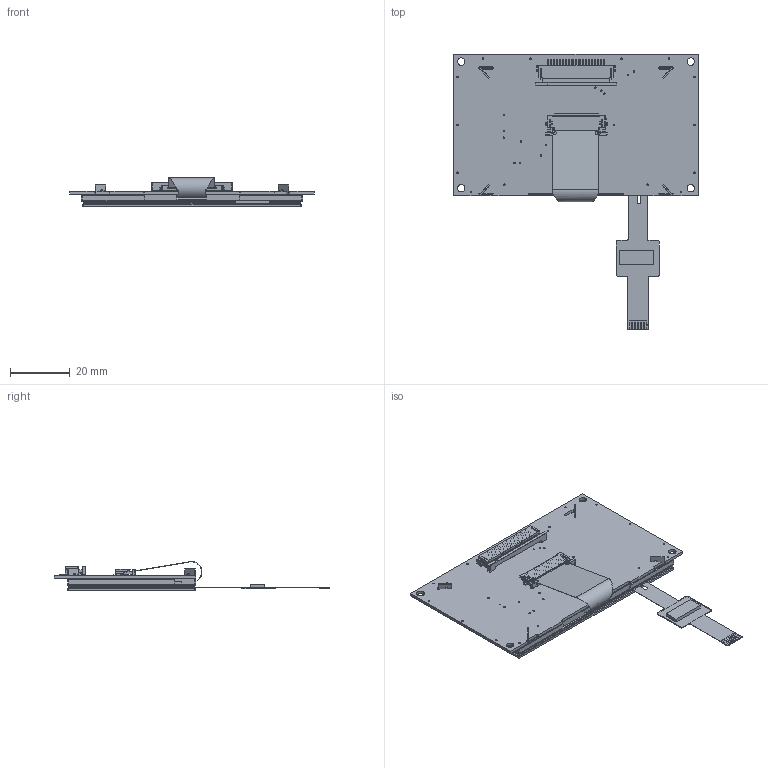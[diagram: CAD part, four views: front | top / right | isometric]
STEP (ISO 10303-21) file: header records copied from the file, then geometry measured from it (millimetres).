
FILE_DESCRIPTION (( 'STEP AP203' ), '1' );
FILE_NAME ('NHD-2.7-12864WDX3M-CTP.STEP', '2023-06-28T20:00:16', ( '' ), ( '' ), 'SwSTEP 2.0', 'SolidWorks 2019', '' );
FILE_SCHEMA (( 'CONFIG_CONTROL_DESIGN' ));
Products named in the file (1): NHD-2.7-12864WDX3M-CTP
Bounding box: 82 x 92.5 x 9.7 mm (x, y, z)
Volume: 21864.1 mm3; surface area: 58710.5 mm2
Topology: 27 solids, 27 shells, 3898 faces, 12263 edges, 8094 vertices
Faces by surface type: plane 3397, cylinder 497, bspline 4
Entity records: 135378 total; most frequent: CARTESIAN_POINT 25832, ORIENTED_EDGE 24526, DIRECTION 20631, EDGE_CURVE 12263, LINE 10869, VECTOR 10869, VERTEX_POINT 8094, AXIS2_PLACEMENT_3D 4881
